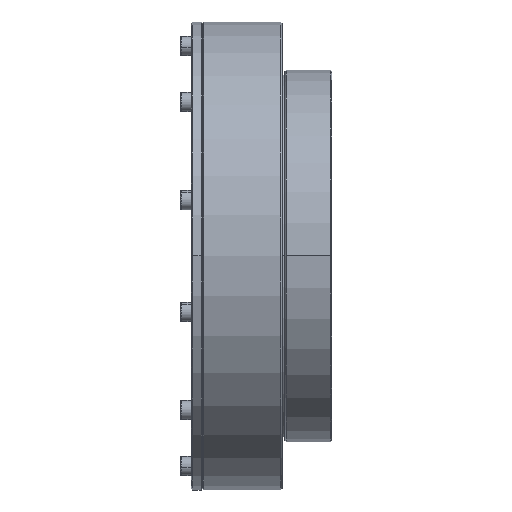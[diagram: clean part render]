
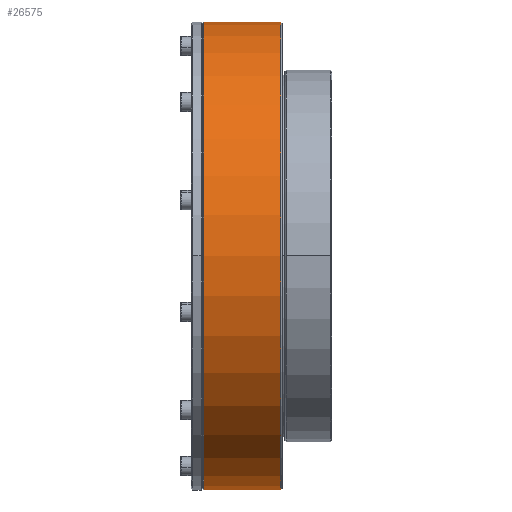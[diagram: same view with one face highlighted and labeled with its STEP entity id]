
A CAD part, top view. The second image highlights one B-rep face of the part: STEP entity #26575.
In plain terms, the highlighted cylindrical face has radius 85 mm (diameter 170 mm), a partial arc.
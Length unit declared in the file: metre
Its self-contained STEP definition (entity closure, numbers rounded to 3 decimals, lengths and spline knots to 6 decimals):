
#1479 = AXIS2_PLACEMENT_3D ( 'NONE', #24495, #33157, #26751 ) ;
#2134 = VERTEX_POINT ( 'NONE', #13557 ) ;
#3347 = VECTOR ( 'NONE', #13989, 1. ) ;
#3433 = EDGE_CURVE ( 'NONE', #17241, #31027, #11882, .T. ) ;
#3568 = CIRCLE ( 'NONE', #24307, 0.085 ) ;
#4733 = CARTESIAN_POINT ( 'NONE',  ( -0.0245, 0., 0. ) ) ;
#5875 = CARTESIAN_POINT ( 'NONE',  ( 0.0035, 0., 0. ) ) ;
#6226 = ORIENTED_EDGE ( 'NONE', *, *, #19162, .T. ) ;
#6692 = EDGE_CURVE ( 'NONE', #23753, #31027, #29922, .T. ) ;
#7576 = FACE_OUTER_BOUND ( 'NONE', #33492, .T. ) ;
#7702 = AXIS2_PLACEMENT_3D ( 'NONE', #5875, #13484, #26121 ) ;
#8385 = ORIENTED_EDGE ( 'NONE', *, *, #3433, .T. ) ;
#8426 = LINE ( 'NONE', #33611, #3347 ) ;
#11882 = CIRCLE ( 'NONE', #7702, 0.085 ) ;
#13230 = CARTESIAN_POINT ( 'NONE',  ( 0.026466, 0.085, 0. ) ) ;
#13484 = DIRECTION ( 'NONE',  ( -1., 0., 0. ) ) ;
#13557 = CARTESIAN_POINT ( 'NONE',  ( -0.0245, -0.085, 0. ) ) ;
#13822 = DIRECTION ( 'NONE',  ( 1., 0., 0. ) ) ;
#13989 = DIRECTION ( 'NONE',  ( 1., 0., 0. ) ) ;
#16543 = CARTESIAN_POINT ( 'NONE',  ( 0.0035, -0.085, 0. ) ) ;
#17241 = VERTEX_POINT ( 'NONE', #16543 ) ;
#17667 = CARTESIAN_POINT ( 'NONE',  ( 0.0035, 0.085, 0. ) ) ;
#17746 = VECTOR ( 'NONE', #27525, 1. ) ;
#19162 = EDGE_CURVE ( 'NONE', #23753, #2134, #3568, .T. ) ;
#21879 = CYLINDRICAL_SURFACE ( 'NONE', #1479, 0.085 ) ;
#23753 = VERTEX_POINT ( 'NONE', #32682 ) ;
#24307 = AXIS2_PLACEMENT_3D ( 'NONE', #4733, #13822, #27747 ) ;
#24495 = CARTESIAN_POINT ( 'NONE',  ( 0.026466, 0., 0. ) ) ;
#26121 = DIRECTION ( 'NONE',  ( 0., 1., 0. ) ) ;
#26575 = ADVANCED_FACE ( 'NONE', ( #7576 ), #21879, .T. ) ;
#26751 = DIRECTION ( 'NONE',  ( 0., 1., 0. ) ) ;
#27525 = DIRECTION ( 'NONE',  ( 1., 0., 0. ) ) ;
#27747 = DIRECTION ( 'NONE',  ( 0., 1., 0. ) ) ;
#28183 = EDGE_CURVE ( 'NONE', #2134, #17241, #8426, .T. ) ;
#28866 = ORIENTED_EDGE ( 'NONE', *, *, #28183, .T. ) ;
#29922 = LINE ( 'NONE', #13230, #17746 ) ;
#31027 = VERTEX_POINT ( 'NONE', #17667 ) ;
#31725 = ORIENTED_EDGE ( 'NONE', *, *, #6692, .F. ) ;
#32682 = CARTESIAN_POINT ( 'NONE',  ( -0.0245, 0.085, 0. ) ) ;
#33157 = DIRECTION ( 'NONE',  ( 1., 0., 0. ) ) ;
#33492 = EDGE_LOOP ( 'NONE', ( #6226, #28866, #8385, #31725 ) ) ;
#33611 = CARTESIAN_POINT ( 'NONE',  ( 0.026466, -0.085, 0. ) ) ;
